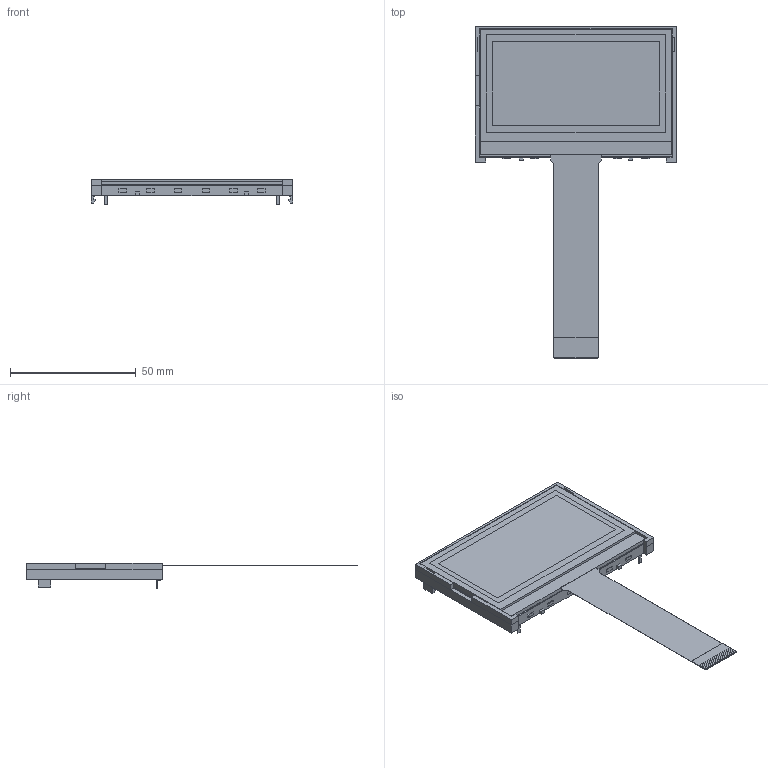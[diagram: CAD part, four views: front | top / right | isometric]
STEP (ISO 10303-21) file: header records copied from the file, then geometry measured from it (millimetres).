
FILE_DESCRIPTION (( 'STEP AP214' ), '1' );
FILE_NAME ('CFAG12864Q1.STEP', '2022-02-04T17:21:33', ( '' ), ( '' ), 'SwSTEP 2.0', 'SolidWorks 2021', '' );
FILE_SCHEMA (( 'AUTOMOTIVE_DESIGN' ));
Length unit declared in the file: millimetre
Products named in the file (1): CFAG12864Q1
Bounding box: 80 x 131.8 x 10.2 mm (x, y, z)
Volume: 26751.3 mm3; surface area: 14252.9 mm2
Topology: 9 solids, 9 shells, 283 faces, 754 edges, 500 vertices
Faces by surface type: plane 279, cylinder 4
Entity records: 11468 total; most frequent: CARTESIAN_POINT 1538, ORIENTED_EDGE 1508, DIRECTION 1330, EDGE_CURVE 754, VECTOR 746, LINE 746, VERTEX_POINT 500, EDGE_LOOP 294
